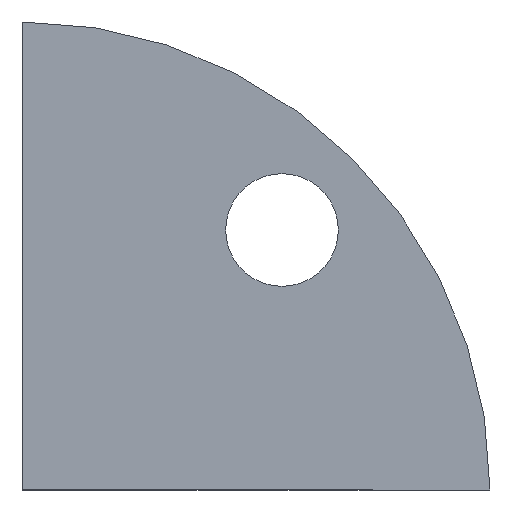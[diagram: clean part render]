
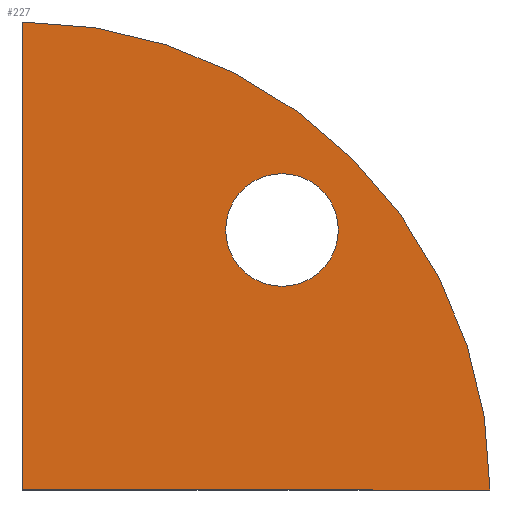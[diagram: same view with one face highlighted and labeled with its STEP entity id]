
A CAD part, left-side view. The second image highlights one B-rep face of the part: STEP entity #227.
In plain terms, the highlighted planar face has unit normal (-1, 0, 0).
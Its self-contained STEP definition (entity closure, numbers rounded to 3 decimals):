
#33=CIRCLE('',#261,27.);
#37=CIRCLE('',#267,3.25);
#79=ORIENTED_EDGE('',*,*,#117,.F.);
#80=ORIENTED_EDGE('',*,*,#111,.F.);
#81=ORIENTED_EDGE('',*,*,#118,.F.);
#82=ORIENTED_EDGE('',*,*,#116,.F.);
#111=EDGE_CURVE('',#133,#134,#33,.F.);
#116=EDGE_CURVE('',#134,#137,#150,.F.);
#117=EDGE_CURVE('',#138,#138,#37,.T.);
#118=EDGE_CURVE('',#137,#133,#151,.F.);
#133=VERTEX_POINT('',#383);
#134=VERTEX_POINT('',#384);
#137=VERTEX_POINT('',#392);
#138=VERTEX_POINT('',#396);
#150=LINE('',#393,#162);
#151=LINE('',#397,#163);
#162=VECTOR('',#327,1000.);
#163=VECTOR('',#332,1000.);
#177=EDGE_LOOP('',(#79));
#178=EDGE_LOOP('',(#80,#81,#82));
#200=FACE_BOUND('',#177,.T.);
#201=FACE_BOUND('',#178,.T.);
#217=PLANE('',#266);
#227=ADVANCED_FACE('',(#200,#201),#217,.T.);
#261=AXIS2_PLACEMENT_3D('',#382,#316,#317);
#266=AXIS2_PLACEMENT_3D('',#394,#328,#329);
#267=AXIS2_PLACEMENT_3D('',#395,#330,#331);
#316=DIRECTION('',(-1.,0.,0.));
#317=DIRECTION('',(0.,1.,0.));
#327=DIRECTION('',(0.,-1.,0.));
#328=DIRECTION('',(-1.,0.,0.));
#329=DIRECTION('',(0.,0.,1.));
#330=DIRECTION('',(-1.,0.,0.));
#331=DIRECTION('',(0.,0.,1.));
#332=DIRECTION('',(0.,0.,-1.));
#382=CARTESIAN_POINT('',(0.,0.,0.));
#383=CARTESIAN_POINT('',(0.,0.,27.));
#384=CARTESIAN_POINT('',(0.,-27.,0.));
#392=CARTESIAN_POINT('',(0.,0.,0.));
#393=CARTESIAN_POINT('',(0.,0.,0.));
#394=CARTESIAN_POINT('',(0.,0.,0.));
#395=CARTESIAN_POINT('',(0.,-15.,15.));
#396=CARTESIAN_POINT('',(0.,-15.,18.25));
#397=CARTESIAN_POINT('',(0.,0.,27.));
